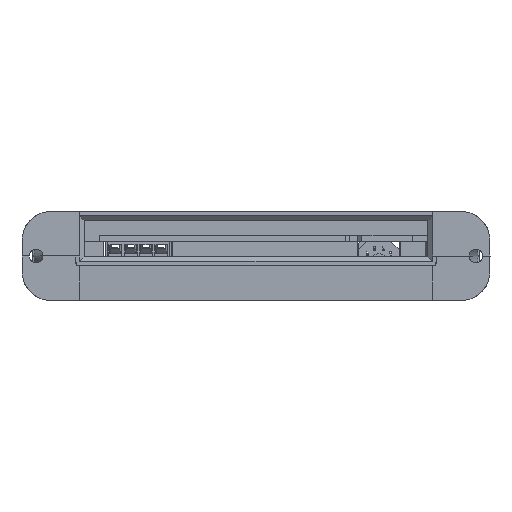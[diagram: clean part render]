
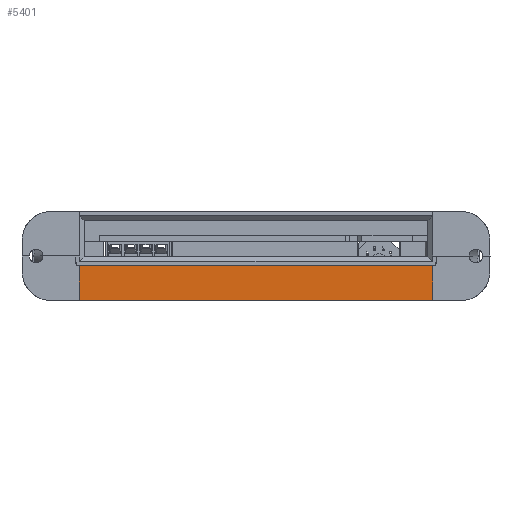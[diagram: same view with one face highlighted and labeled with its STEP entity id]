
A CAD part, left-side view. The second image highlights one B-rep face of the part: STEP entity #5401.
In plain terms, the highlighted planar face has unit normal (-1, 0, -0.018).
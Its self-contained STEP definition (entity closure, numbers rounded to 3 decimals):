
#2903 = VECTOR ( 'NONE', #44809, 1000. ) ;
#5401 = ADVANCED_FACE ( 'NONE', ( #41121 ), #21249, .T. ) ;
#6190 = CARTESIAN_POINT ( 'NONE',  ( -4.575, -80., 8.6 ) ) ;
#8233 = EDGE_LOOP ( 'NONE', ( #17299, #38637, #44571, #24195 ) ) ;
#10063 = DIRECTION ( 'NONE',  ( 0., 1., 0. ) ) ;
#10090 = VECTOR ( 'NONE', #42956, 1000. ) ;
#11203 = LINE ( 'NONE', #6190, #49316 ) ;
#13559 = EDGE_CURVE ( 'NONE', #46110, #18044, #25945, .T. ) ;
#13767 = DIRECTION ( 'NONE',  ( -1., 0., -0.017 ) ) ;
#15545 = CARTESIAN_POINT ( 'NONE',  ( -4.424, 18.8, 0. ) ) ;
#15833 = VECTOR ( 'NONE', #40353, 1000. ) ;
#16730 = AXIS2_PLACEMENT_3D ( 'NONE', #36590, #13767, #40381 ) ;
#17081 = CARTESIAN_POINT ( 'NONE',  ( -4.424, -68.8, 0. ) ) ;
#17299 = ORIENTED_EDGE ( 'NONE', *, *, #19649, .T. ) ;
#18044 = VERTEX_POINT ( 'NONE', #47814 ) ;
#19649 = EDGE_CURVE ( 'NONE', #46110, #27913, #42230, .T. ) ;
#21226 = CARTESIAN_POINT ( 'NONE',  ( -4.616, 18.8, 11. ) ) ;
#21249 = PLANE ( 'NONE',  #16730 ) ;
#22027 = CARTESIAN_POINT ( 'NONE',  ( -4.424, 30., 0. ) ) ;
#24195 = ORIENTED_EDGE ( 'NONE', *, *, #13559, .F. ) ;
#24404 = VERTEX_POINT ( 'NONE', #37545 ) ;
#25945 = LINE ( 'NONE', #21226, #15833 ) ;
#27913 = VERTEX_POINT ( 'NONE', #17081 ) ;
#36590 = CARTESIAN_POINT ( 'NONE',  ( -4.616, -80., 11. ) ) ;
#37545 = CARTESIAN_POINT ( 'NONE',  ( -4.575, -68.8, 8.6 ) ) ;
#38637 = ORIENTED_EDGE ( 'NONE', *, *, #43039, .T. ) ;
#39272 = LINE ( 'NONE', #39594, #10090 ) ;
#39594 = CARTESIAN_POINT ( 'NONE',  ( -4.616, -68.8, 11. ) ) ;
#40353 = DIRECTION ( 'NONE',  ( -0.017, 0., 1. ) ) ;
#40381 = DIRECTION ( 'NONE',  ( 0.017, 0., -1. ) ) ;
#41121 = FACE_OUTER_BOUND ( 'NONE', #8233, .T. ) ;
#42230 = LINE ( 'NONE', #22027, #2903 ) ;
#42956 = DIRECTION ( 'NONE',  ( -0.017, 0., 1. ) ) ;
#43039 = EDGE_CURVE ( 'NONE', #27913, #24404, #39272, .T. ) ;
#44242 = EDGE_CURVE ( 'NONE', #24404, #18044, #11203, .T. ) ;
#44571 = ORIENTED_EDGE ( 'NONE', *, *, #44242, .T. ) ;
#44809 = DIRECTION ( 'NONE',  ( 0., -1., 0. ) ) ;
#46110 = VERTEX_POINT ( 'NONE', #15545 ) ;
#47814 = CARTESIAN_POINT ( 'NONE',  ( -4.575, 18.8, 8.6 ) ) ;
#49316 = VECTOR ( 'NONE', #10063, 1000. ) ;
